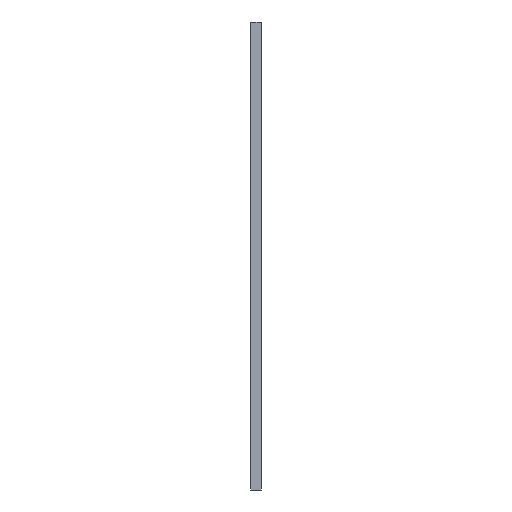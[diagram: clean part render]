
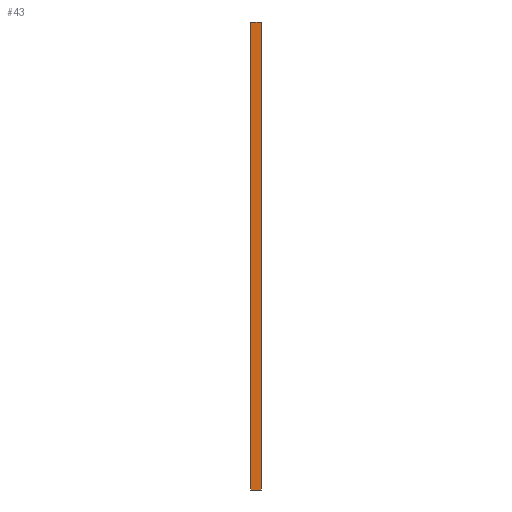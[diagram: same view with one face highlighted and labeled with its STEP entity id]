
A CAD part, left-side view. The second image highlights one B-rep face of the part: STEP entity #43.
In plain terms, the highlighted planar face has unit normal (-1, 0, 0).
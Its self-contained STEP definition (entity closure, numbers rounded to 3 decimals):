
#43=ADVANCED_FACE('',(#119),#2913,.T.);
#119=FACE_OUTER_BOUND('',#195,.T.);
#195=EDGE_LOOP('',(#304,#305,#306,#307));
#304=ORIENTED_EDGE('',*,*,#2052,.T.);
#305=ORIENTED_EDGE('',*,*,#2033,.F.);
#306=ORIENTED_EDGE('',*,*,#2053,.T.);
#307=ORIENTED_EDGE('',*,*,#2050,.F.);
#923=PCURVE('',#2906,#1367);
#945=PCURVE('',#2912,#1389);
#948=PCURVE('',#2913,#1392);
#949=PCURVE('',#2913,#1393);
#950=PCURVE('',#2913,#1394);
#951=PCURVE('',#2913,#1395);
#1200=PCURVE('',#2940,#1644);
#1281=PCURVE('',#2941,#1725);
#1367=DEFINITIONAL_REPRESENTATION('',(#2259),#5201);
#1389=DEFINITIONAL_REPRESENTATION('',(#2298),#5201);
#1392=DEFINITIONAL_REPRESENTATION('',(#2303),#5201);
#1393=DEFINITIONAL_REPRESENTATION('',(#2304),#5201);
#1394=DEFINITIONAL_REPRESENTATION('',(#2306),#5201);
#1395=DEFINITIONAL_REPRESENTATION('',(#2307),#5201);
#1644=DEFINITIONAL_REPRESENTATION('',(#2634),#5201);
#1725=DEFINITIONAL_REPRESENTATION('',(#2675),#5201);
#1811=SURFACE_CURVE('',#2258,(#923,#949),.PCURVE_S1.);
#1828=SURFACE_CURVE('',#2297,(#945,#951),.PCURVE_S1.);
#1830=SURFACE_CURVE('',#2302,(#948,#1200),.PCURVE_S1.);
#1831=SURFACE_CURVE('',#2305,(#950,#1281),.PCURVE_S1.);
#2033=EDGE_CURVE('',#2721,#2718,#1811,.T.);
#2050=EDGE_CURVE('',#2732,#2733,#1828,.T.);
#2052=EDGE_CURVE('',#2732,#2718,#1830,.T.);
#2053=EDGE_CURVE('',#2721,#2733,#1831,.T.);
#2258=B_SPLINE_CURVE_WITH_KNOTS('',1,(#3600,#3601),.UNSPECIFIED.,.F.,.F.,
(2,2),(-3.,0.),.UNSPECIFIED.);
#2259=B_SPLINE_CURVE_WITH_KNOTS('',1,(#3602,#3603),.UNSPECIFIED.,.F.,.F.,
(2,2),(-3.,0.),.UNSPECIFIED.);
#2297=B_SPLINE_CURVE_WITH_KNOTS('',1,(#3678,#3679),.UNSPECIFIED.,.F.,.F.,
(2,2),(0.,3.),.UNSPECIFIED.);
#2298=B_SPLINE_CURVE_WITH_KNOTS('',1,(#3680,#3681),.UNSPECIFIED.,.F.,.F.,
(2,2),(0.,3.),.UNSPECIFIED.);
#2302=B_SPLINE_CURVE_WITH_KNOTS('',1,(#3688,#3689),.UNSPECIFIED.,.F.,.F.,
(2,2),(470.,600.),.UNSPECIFIED.);
#2303=B_SPLINE_CURVE_WITH_KNOTS('',1,(#3690,#3691),.UNSPECIFIED.,.F.,.F.,
(2,2),(470.,600.),.UNSPECIFIED.);
#2304=B_SPLINE_CURVE_WITH_KNOTS('',1,(#3692,#3693),.UNSPECIFIED.,.F.,.F.,
(2,2),(-3.,0.),.UNSPECIFIED.);
#2305=B_SPLINE_CURVE_WITH_KNOTS('',1,(#3694,#3695),.UNSPECIFIED.,.F.,.F.,
(2,2),(-600.,-470.),.UNSPECIFIED.);
#2306=B_SPLINE_CURVE_WITH_KNOTS('',1,(#3696,#3697),.UNSPECIFIED.,.F.,.F.,
(2,2),(-600.,-470.),.UNSPECIFIED.);
#2307=B_SPLINE_CURVE_WITH_KNOTS('',1,(#3698,#3699),.UNSPECIFIED.,.F.,.F.,
(2,2),(0.,3.),.UNSPECIFIED.);
#2634=B_SPLINE_CURVE_WITH_KNOTS('',1,(#4692,#4693),.UNSPECIFIED.,.F.,.F.,
(2,2),(470.,600.),.UNSPECIFIED.);
#2675=B_SPLINE_CURVE_WITH_KNOTS('',1,(#4944,#4945),.UNSPECIFIED.,.F.,.F.,
(2,2),(-600.,-470.),.UNSPECIFIED.);
#2718=VERTEX_POINT('',#3440);
#2721=VERTEX_POINT('',#3443);
#2732=VERTEX_POINT('',#3454);
#2733=VERTEX_POINT('',#3455);
#2906=PLANE('',#2962);
#2912=PLANE('',#2968);
#2913=PLANE('',#2969);
#2940=PLANE('',#2996);
#2941=PLANE('',#2997);
#2962=AXIS2_PLACEMENT_3D('',#3040,#3001,$);
#2968=AXIS2_PLACEMENT_3D('',#3046,#3007,$);
#2969=AXIS2_PLACEMENT_3D('',#3047,#3008,$);
#2996=AXIS2_PLACEMENT_3D('',#3366,#3035,$);
#2997=AXIS2_PLACEMENT_3D('',#3367,#3036,$);
#3001=DIRECTION('',(0.,0.,1.));
#3007=DIRECTION('',(0.,0.,-1.));
#3008=DIRECTION('',(-1.,0.,0.));
#3035=DIRECTION('',(0.,-1.,0.));
#3036=DIRECTION('',(0.,1.,0.));
#3040=CARTESIAN_POINT('',(645.,322.,-36.));
#3046=CARTESIAN_POINT('',(810.,322.,-166.));
#3047=CARTESIAN_POINT('',(645.,322.,-166.));
#3366=CARTESIAN_POINT('',(645.,322.,-36.));
#3367=CARTESIAN_POINT('',(645.,325.,-36.));
#3440=CARTESIAN_POINT('',(645.,322.,-36.));
#3443=CARTESIAN_POINT('',(645.,325.,-36.));
#3454=CARTESIAN_POINT('',(645.,322.,-166.));
#3455=CARTESIAN_POINT('',(645.,325.,-166.));
#3600=CARTESIAN_POINT('',(645.,325.,-36.));
#3601=CARTESIAN_POINT('',(645.,322.,-36.));
#3602=CARTESIAN_POINT('',(0.,3.));
#3603=CARTESIAN_POINT('',(0.,0.));
#3678=CARTESIAN_POINT('',(645.,322.,-166.));
#3679=CARTESIAN_POINT('',(645.,325.,-166.));
#3680=CARTESIAN_POINT('',(470.,0.));
#3681=CARTESIAN_POINT('',(470.,3.));
#3688=CARTESIAN_POINT('',(645.,322.,-166.));
#3689=CARTESIAN_POINT('',(645.,322.,-36.));
#3690=CARTESIAN_POINT('',(470.,0.));
#3691=CARTESIAN_POINT('',(600.,0.));
#3692=CARTESIAN_POINT('',(600.,3.));
#3693=CARTESIAN_POINT('',(600.,0.));
#3694=CARTESIAN_POINT('',(645.,325.,-36.));
#3695=CARTESIAN_POINT('',(645.,325.,-166.));
#3696=CARTESIAN_POINT('',(600.,3.));
#3697=CARTESIAN_POINT('',(470.,3.));
#3698=CARTESIAN_POINT('',(470.,0.));
#3699=CARTESIAN_POINT('',(470.,3.));
#4692=CARTESIAN_POINT('',(106.,-107.1));
#4693=CARTESIAN_POINT('',(-24.,-107.1));
#4944=CARTESIAN_POINT('',(-107.1,-24.));
#4945=CARTESIAN_POINT('',(-107.1,106.));
#5201=(
GEOMETRIC_REPRESENTATION_CONTEXT(2)
PARAMETRIC_REPRESENTATION_CONTEXT()
REPRESENTATION_CONTEXT('pspace','')
);
